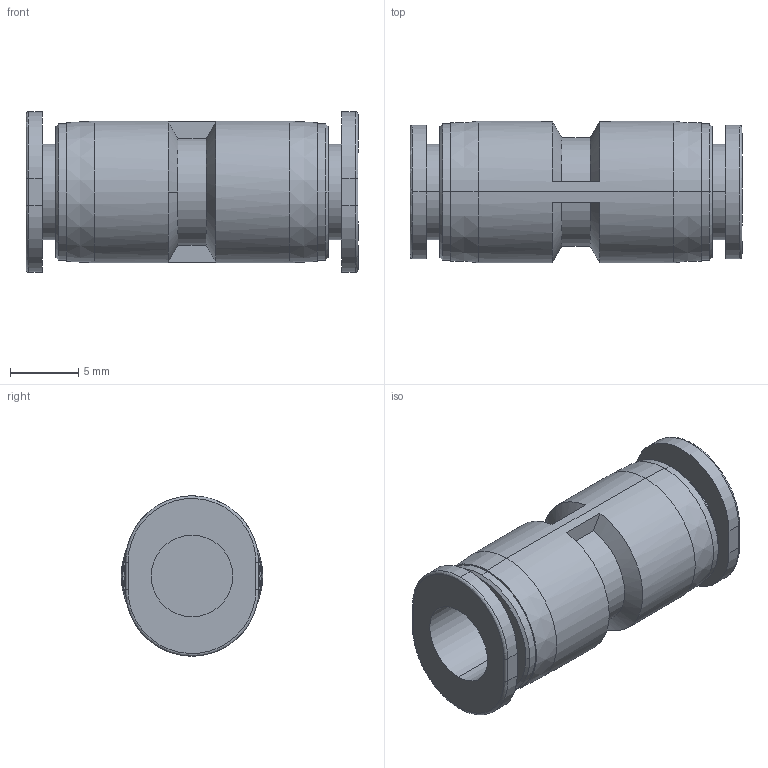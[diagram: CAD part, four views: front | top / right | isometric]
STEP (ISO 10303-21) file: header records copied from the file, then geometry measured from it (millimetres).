
FILE_DESCRIPTION (( 'STEP AP214' ), '1' );
FILE_NAME ('APU6.STEP', '2019-11-18T01:59:54', ( '微软用户' ), ( '微软中国' ), 'SwSTEP 2.0', 'SolidWorks 2016', '' );
FILE_SCHEMA (( 'AUTOMOTIVE_DESIGN' ));
Length unit declared in the file: millimetre
Products named in the file (1): APU6
Bounding box: 24.4 x 10.4 x 11.8 mm (x, y, z)
Volume: 1241.2 mm3; surface area: 1619.3 mm2
Topology: 1 solids, 1 shells, 63 faces, 139 edges, 88 vertices
Faces by surface type: cylinder 26, plane 18, cone 15, bspline 4
Entity records: 1839 total; most frequent: CARTESIAN_POINT 387, DIRECTION 319, ORIENTED_EDGE 278, EDGE_CURVE 139, AXIS2_PLACEMENT_3D 132, VERTEX_POINT 88, EDGE_LOOP 73, CIRCLE 72
